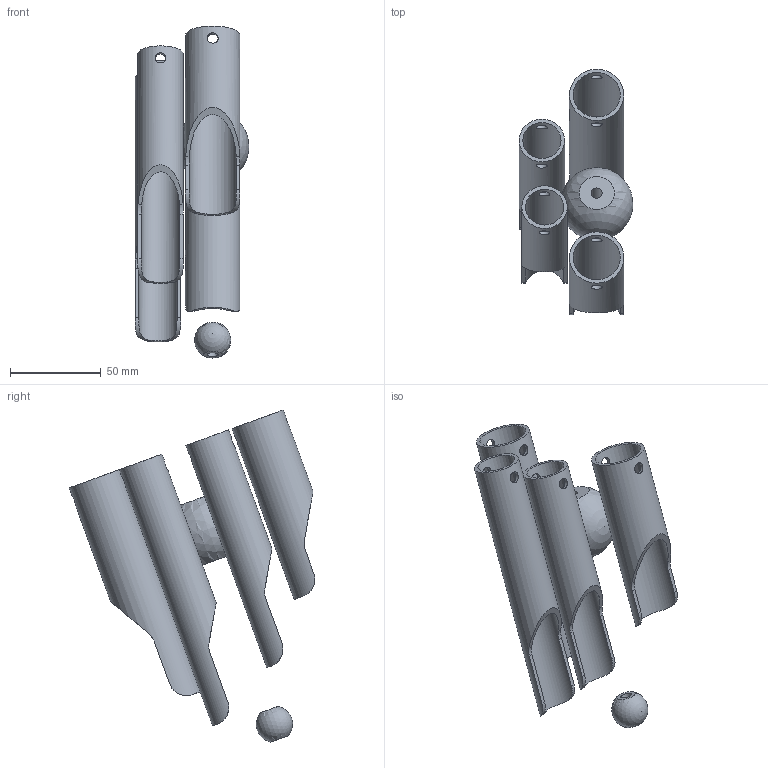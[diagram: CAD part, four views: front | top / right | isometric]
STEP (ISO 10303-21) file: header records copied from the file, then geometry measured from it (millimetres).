
FILE_DESCRIPTION(/* description */ ('Unknown'),/* implementation_level */ '2;1');
FILE_NAME(/* name */ 'Skull-o',/* time_stamp */ '2026-04-27T14:40:56+02:00',/* author */ ('Unknown'),/* organization */ ('Unknown'),/* preprocessor_version */ 'ST-DEVELOPER v18.102',/* originating_system */ 'Solid Edge',/* authorisation */ 'Unknown');
FILE_SCHEMA (('AUTOMOTIVE_DESIGN {1 0 10303 214 3 1 1}'));
Length unit declared in the file: millimetre
Products named in the file (1): Skull-o
Bounding box: 62.5 x 134.99 x 182.6 mm (x, y, z)
Volume: 99506.9 mm3; surface area: 73658.8 mm2
Topology: 6 solids, 6 shells, 60 faces, 167 edges, 115 vertices
Faces by surface type: cylinder 34, plane 24, sphere 2
Full cylindrical faces by diameter (mm): 6 x10, 21 x2, 25 x2, 26 x2, 30 x2
Entity records: 2011 total; most frequent: CARTESIAN_POINT 621, ORIENTED_EDGE 256, DIRECTION 234, EDGE_CURVE 128, EDGE_LOOP 104, FACE_BOUND 104, VERTEX_POINT 96, AXIS2_PLACEMENT_3D 93
